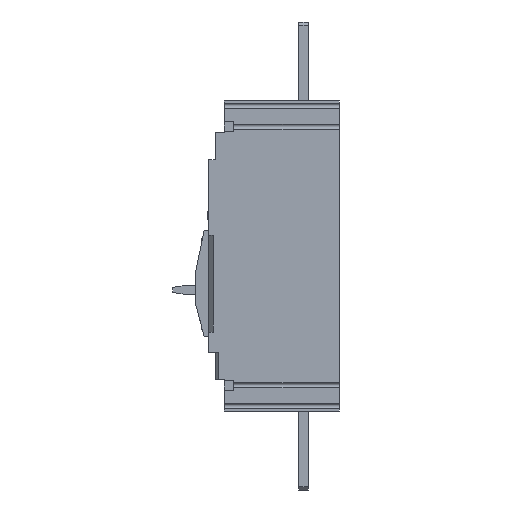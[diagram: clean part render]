
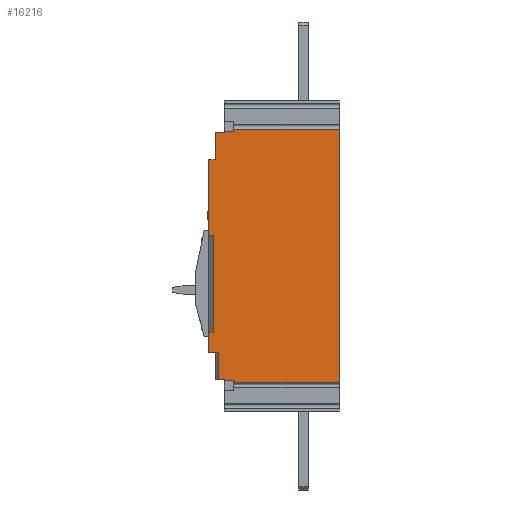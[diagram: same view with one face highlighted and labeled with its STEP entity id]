
A CAD part, left-side view. The second image highlights one B-rep face of the part: STEP entity #16216.
In plain terms, the highlighted planar face has unit normal (-1, 0, 0).
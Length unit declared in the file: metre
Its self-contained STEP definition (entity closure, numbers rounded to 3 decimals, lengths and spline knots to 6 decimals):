
#972=PLANE('',#17359);
#1832=FACE_OUTER_BOUND('',#2854,.T.);
#2854=EDGE_LOOP('',(#14933,#14934,#14935,#14936,#14937,#14938,#14939,#14940,
#14941,#14942,#14943,#14944,#14945,#14946,#14947,#14948,#14949,#14950,#14951,
#14952));
#3323=LINE('',#22161,#5266);
#3444=LINE('',#22461,#5387);
#3447=LINE('',#22466,#5390);
#3638=LINE('',#23055,#5581);
#3649=LINE('',#23078,#5592);
#3651=LINE('',#23082,#5594);
#4857=LINE('',#25604,#6800);
#4859=LINE('',#25608,#6802);
#4862=LINE('',#25614,#6805);
#4870=LINE('',#25641,#6813);
#4876=LINE('',#25653,#6819);
#4996=LINE('',#25951,#6939);
#4997=LINE('',#25952,#6940);
#5000=LINE('',#25957,#6943);
#5055=LINE('',#26425,#6998);
#5057=LINE('',#26429,#7000);
#5059=LINE('',#26432,#7002);
#5060=LINE('',#26434,#7003);
#5061=LINE('',#26436,#7004);
#5062=LINE('',#26437,#7005);
#5266=VECTOR('',#17916,0.109);
#5387=VECTOR('',#18193,0.0024);
#5390=VECTOR('',#18198,0.01);
#5581=VECTOR('',#18797,0.109);
#5592=VECTOR('',#18818,0.0024);
#5594=VECTOR('',#18822,0.01);
#6800=VECTOR('',#20964,0.005);
#6802=VECTOR('',#20968,0.1);
#6805=VECTOR('',#20973,0.005);
#6813=VECTOR('',#20997,0.028);
#6819=VECTOR('',#21005,0.007);
#6939=VECTOR('',#21299,0.0208);
#6940=VECTOR('',#21300,0.0778);
#6943=VECTOR('',#21305,0.01);
#6998=VECTOR('',#21464,0.0013);
#7000=VECTOR('',#21468,0.006);
#7002=VECTOR('',#21472,0.028);
#7003=VECTOR('',#21475,0.262);
#7004=VECTOR('',#21476,0.0013);
#7005=VECTOR('',#21477,0.009);
#7219=VERTEX_POINT('',#22159);
#7220=VERTEX_POINT('',#22160);
#7321=VERTEX_POINT('',#22460);
#7322=VERTEX_POINT('',#22464);
#7515=VERTEX_POINT('',#23052);
#7516=VERTEX_POINT('',#23054);
#7523=VERTEX_POINT('',#23077);
#7524=VERTEX_POINT('',#23081);
#8346=VERTEX_POINT('',#25600);
#8348=VERTEX_POINT('',#25603);
#8349=VERTEX_POINT('',#25607);
#8351=VERTEX_POINT('',#25613);
#8361=VERTEX_POINT('',#25638);
#8362=VERTEX_POINT('',#25640);
#8367=VERTEX_POINT('',#25652);
#8458=VERTEX_POINT('',#25949);
#8459=VERTEX_POINT('',#25955);
#8514=VERTEX_POINT('',#26424);
#8515=VERTEX_POINT('',#26428);
#8516=VERTEX_POINT('',#26435);
#8779=EDGE_CURVE('',#7219,#7220,#3323,.T.);
#8926=EDGE_CURVE('',#7219,#7321,#3444,.T.);
#8929=EDGE_CURVE('',#7321,#7322,#3447,.T.);
#9203=EDGE_CURVE('',#7515,#7516,#3638,.T.);
#9215=EDGE_CURVE('',#7516,#7523,#3649,.T.);
#9217=EDGE_CURVE('',#7523,#7524,#3651,.T.);
#10446=EDGE_CURVE('',#8348,#8346,#4857,.T.);
#10448=EDGE_CURVE('',#8348,#8349,#4859,.T.);
#10451=EDGE_CURVE('',#8349,#8351,#4862,.T.);
#10464=EDGE_CURVE('',#8361,#8362,#4870,.T.);
#10470=EDGE_CURVE('',#8361,#8367,#4876,.T.);
#10619=EDGE_CURVE('',#8458,#8346,#4996,.T.);
#10620=EDGE_CURVE('',#8351,#8367,#4997,.T.);
#10623=EDGE_CURVE('',#8458,#8459,#5000,.T.);
#10706=EDGE_CURVE('',#7524,#8514,#5055,.T.);
#10708=EDGE_CURVE('',#8514,#8515,#5057,.T.);
#10710=EDGE_CURVE('',#8515,#8459,#5059,.T.);
#10711=EDGE_CURVE('',#7515,#7220,#5060,.T.);
#10712=EDGE_CURVE('',#8516,#7322,#5061,.T.);
#10713=EDGE_CURVE('',#8516,#8362,#5062,.T.);
#14933=ORIENTED_EDGE('',*,*,#10708,.F.);
#14934=ORIENTED_EDGE('',*,*,#10706,.F.);
#14935=ORIENTED_EDGE('',*,*,#9217,.F.);
#14936=ORIENTED_EDGE('',*,*,#9215,.F.);
#14937=ORIENTED_EDGE('',*,*,#9203,.F.);
#14938=ORIENTED_EDGE('',*,*,#10711,.T.);
#14939=ORIENTED_EDGE('',*,*,#8779,.F.);
#14940=ORIENTED_EDGE('',*,*,#8926,.T.);
#14941=ORIENTED_EDGE('',*,*,#8929,.T.);
#14942=ORIENTED_EDGE('',*,*,#10712,.F.);
#14943=ORIENTED_EDGE('',*,*,#10713,.T.);
#14944=ORIENTED_EDGE('',*,*,#10464,.F.);
#14945=ORIENTED_EDGE('',*,*,#10470,.T.);
#14946=ORIENTED_EDGE('',*,*,#10620,.F.);
#14947=ORIENTED_EDGE('',*,*,#10451,.F.);
#14948=ORIENTED_EDGE('',*,*,#10448,.F.);
#14949=ORIENTED_EDGE('',*,*,#10446,.T.);
#14950=ORIENTED_EDGE('',*,*,#10619,.F.);
#14951=ORIENTED_EDGE('',*,*,#10623,.T.);
#14952=ORIENTED_EDGE('',*,*,#10710,.F.);
#16216=ADVANCED_FACE('',(#1832),#972,.T.);
#17359=AXIS2_PLACEMENT_3D('',#26433,#21473,#21474);
#17916=DIRECTION('',(0.,-1.,0.));
#18193=DIRECTION('',(0.,0.,-1.));
#18198=DIRECTION('',(0.,1.,0.));
#18797=DIRECTION('',(0.,1.,0.));
#18818=DIRECTION('',(0.,0.,1.));
#18822=DIRECTION('',(0.,1.,0.));
#20964=DIRECTION('',(0.,1.,0.));
#20968=DIRECTION('',(0.,0.,1.));
#20973=DIRECTION('',(0.,1.,0.));
#20997=DIRECTION('',(0.,0.,1.));
#21005=DIRECTION('',(0.,1.,0.));
#21299=DIRECTION('',(0.,0.,1.));
#21300=DIRECTION('',(0.,0.,1.));
#21305=DIRECTION('',(0.,-1.,0.));
#21464=DIRECTION('',(0.,0.,1.));
#21468=DIRECTION('',(0.,1.,0.));
#21472=DIRECTION('',(0.,0.,1.));
#21473=DIRECTION('center_axis',(-1.,0.,0.));
#21474=DIRECTION('ref_axis',(0.,0.,1.));
#21475=DIRECTION('',(0.,0.,1.));
#21476=DIRECTION('',(0.,0.,1.));
#21477=DIRECTION('',(0.,1.,0.));
#22159=CARTESIAN_POINT('',(-0.105,0.109,0.131));
#22160=CARTESIAN_POINT('',(-0.105,0.,0.131));
#22161=CARTESIAN_POINT('',(-0.105,0.109,0.131));
#22460=CARTESIAN_POINT('',(-0.105,0.109,0.1286));
#22461=CARTESIAN_POINT('',(-0.105,0.109,0.131));
#22464=CARTESIAN_POINT('',(-0.105,0.119,0.1286));
#22466=CARTESIAN_POINT('',(-0.105,0.109,0.1286));
#23052=CARTESIAN_POINT('',(-0.105,0.,-0.131));
#23054=CARTESIAN_POINT('',(-0.105,0.109,-0.131));
#23055=CARTESIAN_POINT('',(-0.105,0.,-0.131));
#23077=CARTESIAN_POINT('',(-0.105,0.109,-0.1286));
#23078=CARTESIAN_POINT('',(-0.105,0.109,-0.131));
#23081=CARTESIAN_POINT('',(-0.105,0.119,-0.1286));
#23082=CARTESIAN_POINT('',(-0.105,0.109,-0.1286));
#25600=CARTESIAN_POINT('',(-0.105,0.135,-0.0785));
#25603=CARTESIAN_POINT('',(-0.105,0.13,-0.0785));
#25604=CARTESIAN_POINT('',(-0.105,0.13,-0.0785));
#25607=CARTESIAN_POINT('',(-0.105,0.13,0.0215));
#25608=CARTESIAN_POINT('',(-0.105,0.13,-0.0785));
#25613=CARTESIAN_POINT('',(-0.105,0.135,0.0215));
#25614=CARTESIAN_POINT('',(-0.105,0.13,0.0215));
#25638=CARTESIAN_POINT('',(-0.105,0.128,0.0993));
#25640=CARTESIAN_POINT('',(-0.105,0.128,0.1273));
#25641=CARTESIAN_POINT('',(-0.105,0.128,0.0993));
#25652=CARTESIAN_POINT('',(-0.105,0.135,0.0993));
#25653=CARTESIAN_POINT('',(-0.105,0.128,0.0993));
#25949=CARTESIAN_POINT('',(-0.105,0.135,-0.0993));
#25951=CARTESIAN_POINT('',(-0.105,0.135,-0.0993));
#25952=CARTESIAN_POINT('',(-0.105,0.135,0.0215));
#25955=CARTESIAN_POINT('',(-0.105,0.125,-0.0993));
#25957=CARTESIAN_POINT('',(-0.105,0.135,-0.0993));
#26424=CARTESIAN_POINT('',(-0.105,0.119,-0.1273));
#26425=CARTESIAN_POINT('',(-0.105,0.119,-0.1286));
#26428=CARTESIAN_POINT('',(-0.105,0.125,-0.1273));
#26429=CARTESIAN_POINT('',(-0.105,0.119,-0.1273));
#26432=CARTESIAN_POINT('',(-0.105,0.125,-0.1273));
#26433=CARTESIAN_POINT('Origin',(-0.105,0.,-0.16));
#26434=CARTESIAN_POINT('',(-0.105,0.,-0.131));
#26435=CARTESIAN_POINT('',(-0.105,0.119,0.1273));
#26436=CARTESIAN_POINT('',(-0.105,0.119,0.1273));
#26437=CARTESIAN_POINT('',(-0.105,0.119,0.1273));
